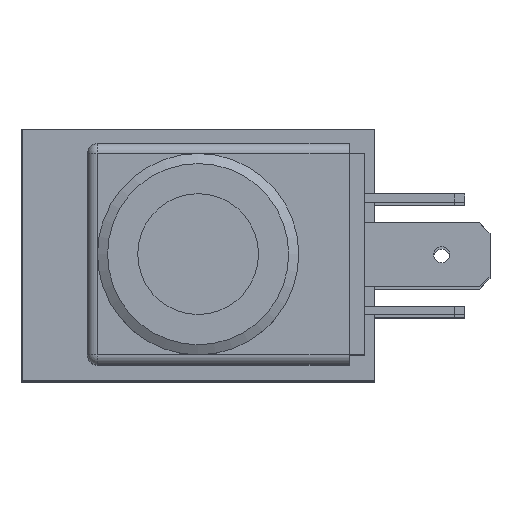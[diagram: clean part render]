
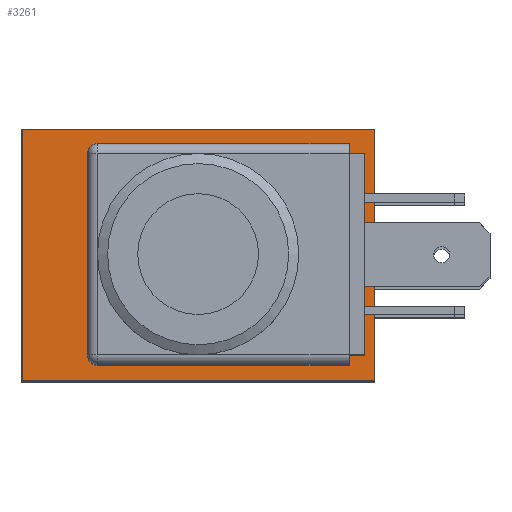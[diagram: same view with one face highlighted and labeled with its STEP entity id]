
A CAD part, top view. The second image highlights one B-rep face of the part: STEP entity #3261.
In plain terms, the highlighted planar face has unit normal (0, 0, 1).
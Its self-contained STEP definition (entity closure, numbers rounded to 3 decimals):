
#852=CARTESIAN_POINT('',(3.849,11.,50.));
#853=VERTEX_POINT('',#852);
#860=CARTESIAN_POINT('',(-7.5,11.,50.));
#861=VERTEX_POINT('',#860);
#862=CARTESIAN_POINT('',(-7.5,11.,50.));
#863=DIRECTION('',(1.0,0.0,0.0));
#864=VECTOR('',#863,11.349);
#865=LINE('',#862,#864);
#866=EDGE_CURVE('',#861,#853,#865,.T.);
#890=CARTESIAN_POINT('',(11.,3.849,50.));
#891=VERTEX_POINT('',#890);
#898=CARTESIAN_POINT('',(3.849,11.,50.));
#899=DIRECTION('',(0.707,-0.707,0.0));
#900=VECTOR('',#899,10.113);
#901=LINE('',#898,#900);
#902=EDGE_CURVE('',#853,#891,#901,.T.);
#921=CARTESIAN_POINT('',(11.,-7.5,50.));
#922=VERTEX_POINT('',#921);
#929=CARTESIAN_POINT('',(11.,3.849,50.));
#930=DIRECTION('',(0.0,-1.0,0.0));
#931=VECTOR('',#930,11.349);
#932=LINE('',#929,#931);
#933=EDGE_CURVE('',#891,#922,#932,.T.);
#953=CARTESIAN_POINT('',(7.5,-11.,50.));
#954=VERTEX_POINT('',#953);
#961=CARTESIAN_POINT('',(7.5,-7.5,50.));
#962=DIRECTION('',(0.0,0.0,-1.0));
#963=DIRECTION('',(0.0,-1.0,0.0));
#964=AXIS2_PLACEMENT_3D('',#961,#962,#963);
#965=CIRCLE('',#964,3.5);
#966=EDGE_CURVE('',#922,#954,#965,.T.);
#985=CARTESIAN_POINT('',(-3.849,-11.,50.));
#986=VERTEX_POINT('',#985);
#993=CARTESIAN_POINT('',(7.5,-11.,50.));
#994=DIRECTION('',(-1.0,0.0,0.0));
#995=VECTOR('',#994,11.349);
#996=LINE('',#993,#995);
#997=EDGE_CURVE('',#954,#986,#996,.T.);
#1016=CARTESIAN_POINT('',(-11.,-3.849,50.));
#1017=VERTEX_POINT('',#1016);
#1024=CARTESIAN_POINT('',(-3.849,-11.,50.));
#1025=DIRECTION('',(-0.707,0.707,0.0));
#1026=VECTOR('',#1025,10.113);
#1027=LINE('',#1024,#1026);
#1028=EDGE_CURVE('',#986,#1017,#1027,.T.);
#1047=CARTESIAN_POINT('',(-11.,7.5,50.));
#1048=VERTEX_POINT('',#1047);
#1055=CARTESIAN_POINT('',(-11.,-3.849,50.));
#1056=DIRECTION('',(0.0,1.0,0.0));
#1057=VECTOR('',#1056,11.349);
#1058=LINE('',#1055,#1057);
#1059=EDGE_CURVE('',#1017,#1048,#1058,.T.);
#1078=CARTESIAN_POINT('',(-7.5,7.5,50.));
#1079=DIRECTION('',(0.0,0.0,-1.0));
#1080=DIRECTION('',(0.0,1.0,0.0));
#1081=AXIS2_PLACEMENT_3D('',#1078,#1079,#1080);
#1082=CIRCLE('',#1081,3.5);
#1083=EDGE_CURVE('',#1048,#861,#1082,.T.);
#3121=CARTESIAN_POINT('',(17.49,-12.49,50.));
#3122=VERTEX_POINT('',#3121);
#3123=CARTESIAN_POINT('',(-17.49,-12.49,50.));
#3124=VERTEX_POINT('',#3123);
#3125=CARTESIAN_POINT('',(17.49,-12.49,50.));
#3126=DIRECTION('',(-1.0,0.0,0.0));
#3127=VECTOR('',#3126,34.98);
#3128=LINE('',#3125,#3127);
#3129=EDGE_CURVE('',#3122,#3124,#3128,.T.);
#3161=CARTESIAN_POINT('',(-17.49,12.49,50.));
#3162=VERTEX_POINT('',#3161);
#3163=CARTESIAN_POINT('',(-17.49,-12.49,50.));
#3164=DIRECTION('',(0.0,1.0,0.0));
#3165=VECTOR('',#3164,24.98);
#3166=LINE('',#3163,#3165);
#3167=EDGE_CURVE('',#3124,#3162,#3166,.T.);
#3192=CARTESIAN_POINT('',(17.49,12.49,50.));
#3193=VERTEX_POINT('',#3192);
#3194=CARTESIAN_POINT('',(-17.49,12.49,50.));
#3195=DIRECTION('',(1.0,0.0,0.0));
#3196=VECTOR('',#3195,34.98);
#3197=LINE('',#3194,#3196);
#3198=EDGE_CURVE('',#3162,#3193,#3197,.T.);
#3223=CARTESIAN_POINT('',(17.49,12.49,50.));
#3224=DIRECTION('',(0.0,-1.0,0.0));
#3225=VECTOR('',#3224,24.98);
#3226=LINE('',#3223,#3225);
#3227=EDGE_CURVE('',#3193,#3122,#3226,.T.);
#3240=CARTESIAN_POINT('',(0.,0.,50.));
#3241=DIRECTION('',(0.0,0.0,1.0));
#3242=DIRECTION('',(1.0,0.0,0.0));
#3243=AXIS2_PLACEMENT_3D('',#3240,#3241,#3242);
#3244=PLANE('',#3243);
#3245=ORIENTED_EDGE('',*,*,#3129,.F.);
#3246=ORIENTED_EDGE('',*,*,#3227,.F.);
#3247=ORIENTED_EDGE('',*,*,#3198,.F.);
#3248=ORIENTED_EDGE('',*,*,#3167,.F.);
#3249=EDGE_LOOP('',(#3245,#3246,#3247,#3248));
#3250=FACE_OUTER_BOUND('',#3249,.T.);
#3251=ORIENTED_EDGE('',*,*,#866,.T.);
#3252=ORIENTED_EDGE('',*,*,#902,.T.);
#3253=ORIENTED_EDGE('',*,*,#933,.T.);
#3254=ORIENTED_EDGE('',*,*,#966,.T.);
#3255=ORIENTED_EDGE('',*,*,#997,.T.);
#3256=ORIENTED_EDGE('',*,*,#1028,.T.);
#3257=ORIENTED_EDGE('',*,*,#1059,.T.);
#3258=ORIENTED_EDGE('',*,*,#1083,.T.);
#3259=EDGE_LOOP('',(#3251,#3252,#3253,#3254,#3255,#3256,#3257,#3258));
#3260=FACE_BOUND('',#3259,.T.);
#3261=ADVANCED_FACE('',(#3250,#3260),#3244,.T.);
